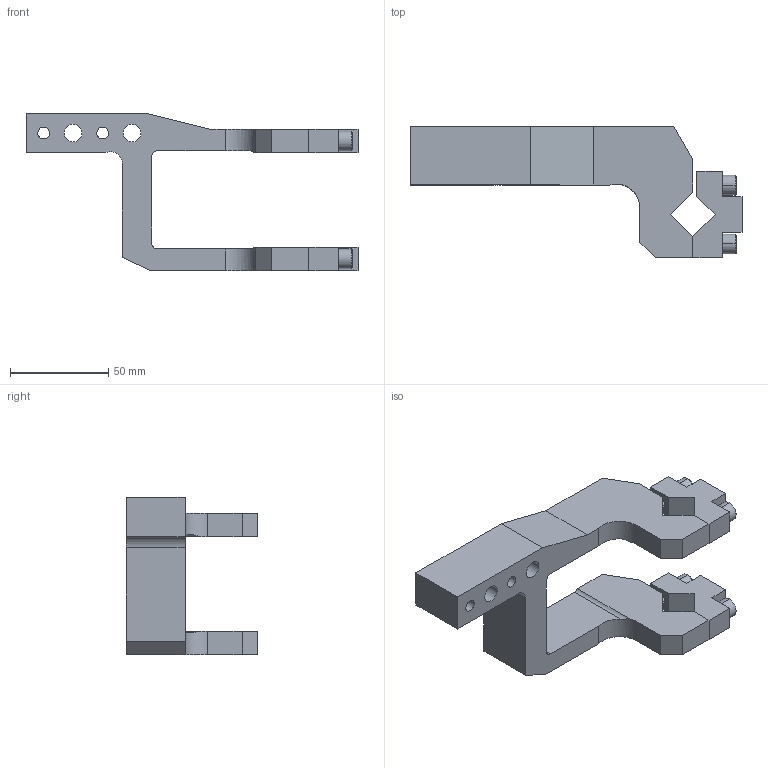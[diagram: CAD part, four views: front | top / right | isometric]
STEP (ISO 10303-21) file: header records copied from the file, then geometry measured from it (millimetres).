
FILE_DESCRIPTION((''),'2;1');
FILE_NAME('S:\Matthew\Step Files\XM Clamp Arms\XJ50-CAL-01.stp','2006-06-28T08:09:53',('Matthew'),(''),'Autodesk Inventor 8','Autodesk Inventor 8','');
FILE_SCHEMA(('AUTOMOTIVE_DESIGN { 1 0 10303 214 1 1 1 1 }'));
Length unit declared in the file: millimetre
Products named in the file (4): XJ50-CAL-01; XJ50-CAL-011; XJ50-CAL-012; XJ50-CAL-013
Assembly tree (3 placements, depth 2):
  XJ50-CAL-01
    XJ50-CAL-011
    XJ50-CAL-012
    XJ50-CAL-013
Bounding box: 169 x 67 x 80 mm (x, y, z)
Volume: 150107.9 mm3; surface area: 42898.3 mm2
Topology: 3 solids, 3 shells, 148 faces, 374 edges, 240 vertices
Faces by surface type: plane 62, bspline 46, cylinder 24, cone 16
Entity records: 4684 total; most frequent: CARTESIAN_POINT 1123, ORIENTED_EDGE 732, DIRECTION 668, EDGE_CURVE 366, VECTOR 278, LINE 278, VERTEX_POINT 240, AXIS2_PLACEMENT_3D 195
